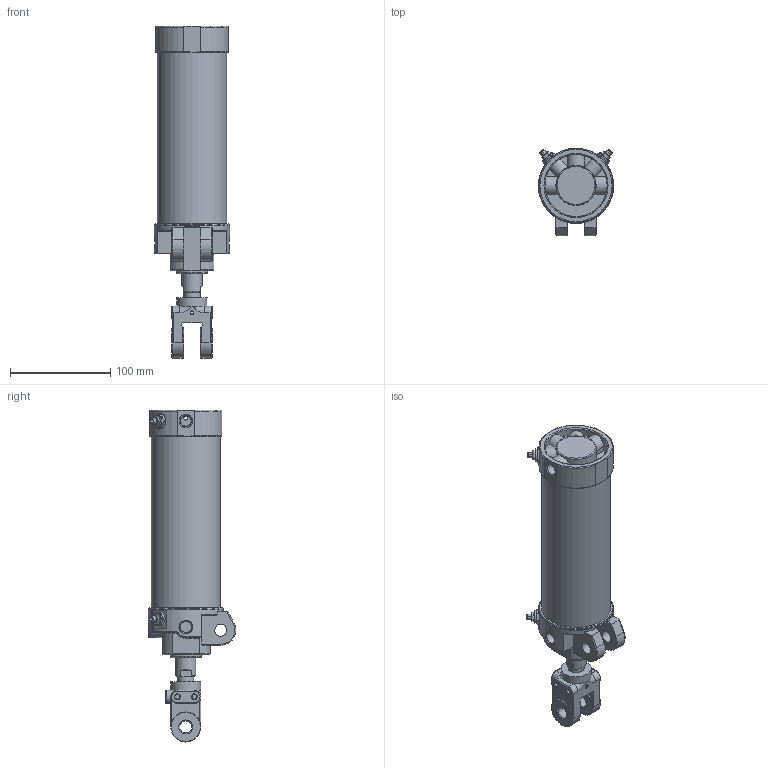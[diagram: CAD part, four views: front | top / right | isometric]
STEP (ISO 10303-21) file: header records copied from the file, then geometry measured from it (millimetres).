
FILE_DESCRIPTION((''),'2;1');
FILE_NAME('I:\3D電子目錄\氣缸\DCK\DCK\DCK-1A-63x125-Y.stp','2008-02-26T15:35:24',('Administrator'),(''),'Autodesk Inventor 11','Autodesk Inventor 11','');
FILE_SCHEMA(('AUTOMOTIVE_DESIGN { 1 0 10303 214 1 1 1 1 }'));
Length unit declared in the file: millimetre
Products named in the file (6): DCK-1A-63-Y; 緩衝針; 緩衝針-1; 緩衝針-201; 緩衝針-3
Assembly tree (8 placements, depth 3):
  DCK-1A-63-Y
    DCK-1A-63-Y
    緩衝針  x4
      緩衝針-1
      緩衝針-201
      緩衝針-3
Bounding box: 75 x 87.29 x 331 mm (x, y, z)
Volume: 391368.1 mm3; surface area: 157485.7 mm2
Topology: 16 solids, 16 shells, 674 faces, 1501 edges, 931 vertices
Faces by surface type: plane 246, cylinder 189, cone 145, torus 48, bspline 46
Full cylindrical faces by diameter (mm): 2 x1, 3 x2, 3.8 x2, 4 x6, 4.6 x4, 4.917 x2, 5 x8, 5.1 x4, 5.2 x12, 5.5 x4, 7 x1, 7.25 x1, 7.9 x4, 8 x2, 11.3 x3, 12 x4, 12.8 x4, 16 x3, 20 x1, 21 x1, 22 x2, 23 x1, 24.7 x1, 26 x1, 27 x1, 28 x1, 29 x1, 30 x3, 31 x1, 33 x1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
Entity records: 15192 total; most frequent: CARTESIAN_POINT 6245, DIRECTION 1818, ORIENTED_EDGE 1644, EDGE_CURVE 822, AXIS2_PLACEMENT_3D 781, EDGE_LOOP 636, VERTEX_POINT 590, FACE_OUTER_BOUND 425
